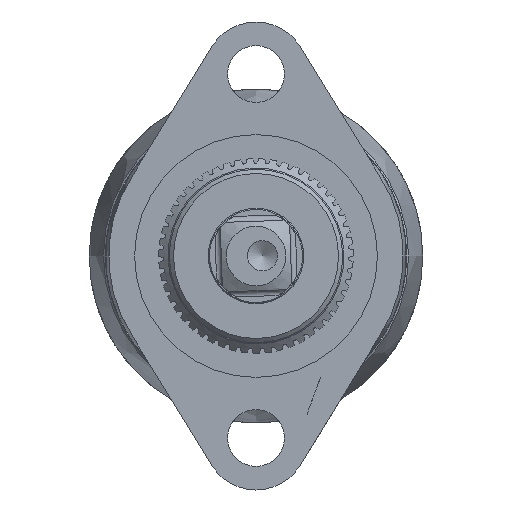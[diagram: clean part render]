
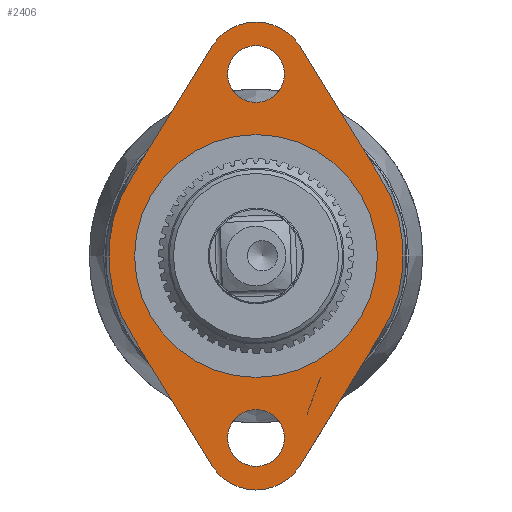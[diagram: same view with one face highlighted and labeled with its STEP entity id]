
A CAD part, left-side view. The second image highlights one B-rep face of the part: STEP entity #2406.
In plain terms, the highlighted planar face has unit normal (-1, 0, 0).
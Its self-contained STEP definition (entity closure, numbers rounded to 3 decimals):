
#707=LINE('',#161860,#1067);
#713=LINE('',#161884,#1073);
#714=LINE('',#161888,#1074);
#715=LINE('',#161892,#1075);
#1067=VECTOR('',#19800,1.);
#1073=VECTOR('',#19822,1.);
#1074=VECTOR('',#19825,1.);
#1075=VECTOR('',#19828,1.);
#2406=ADVANCED_FACE('',(#5329,#2941,#2942,#2943),#2784,.T.);
#2784=PLANE('',#17767);
#2941=FACE_BOUND('',#6409,.T.);
#2942=FACE_BOUND('',#6410,.T.);
#2943=FACE_BOUND('',#6411,.T.);
#5329=FACE_OUTER_BOUND('',#6408,.T.);
#6408=EDGE_LOOP('',(#10591,#10592,#10593,#10594,#10595,#10596,#10597,#10598));
#6409=EDGE_LOOP('',(#10599));
#6410=EDGE_LOOP('',(#10600));
#6411=EDGE_LOOP('',(#10601));
#10591=ORIENTED_EDGE('',*,*,#15791,.T.);
#10592=ORIENTED_EDGE('',*,*,#15794,.F.);
#10593=ORIENTED_EDGE('',*,*,#15805,.F.);
#10594=ORIENTED_EDGE('',*,*,#15806,.T.);
#10595=ORIENTED_EDGE('',*,*,#15807,.T.);
#10596=ORIENTED_EDGE('',*,*,#15808,.F.);
#10597=ORIENTED_EDGE('',*,*,#15809,.T.);
#10598=ORIENTED_EDGE('',*,*,#15810,.T.);
#10599=ORIENTED_EDGE('',*,*,#15811,.F.);
#10600=ORIENTED_EDGE('',*,*,#15812,.F.);
#10601=ORIENTED_EDGE('',*,*,#15789,.T.);
#13446=VERTEX_POINT('',#161849);
#13448=VERTEX_POINT('',#161853);
#13449=VERTEX_POINT('',#161855);
#13451=VERTEX_POINT('',#161861);
#13460=VERTEX_POINT('',#161883);
#13461=VERTEX_POINT('',#161885);
#13462=VERTEX_POINT('',#161887);
#13463=VERTEX_POINT('',#161889);
#13464=VERTEX_POINT('',#161891);
#13465=VERTEX_POINT('',#161894);
#13466=VERTEX_POINT('',#161896);
#15789=EDGE_CURVE('',#13446,#13446,#16799,.T.);
#15791=EDGE_CURVE('',#13449,#13448,#16800,.T.);
#15794=EDGE_CURVE('',#13451,#13448,#707,.T.);
#15805=EDGE_CURVE('',#13460,#13451,#16807,.T.);
#15806=EDGE_CURVE('',#13460,#13461,#713,.T.);
#15807=EDGE_CURVE('',#13461,#13462,#16808,.T.);
#15808=EDGE_CURVE('',#13463,#13462,#714,.T.);
#15809=EDGE_CURVE('',#13463,#13464,#16809,.T.);
#15810=EDGE_CURVE('',#13464,#13449,#715,.T.);
#15811=EDGE_CURVE('',#13465,#13465,#16810,.T.);
#15812=EDGE_CURVE('',#13466,#13466,#16811,.T.);
#16799=CIRCLE('',#17750,22.225);
#16800=CIRCLE('',#17752,26.975);
#16807=CIRCLE('',#17762,9.525);
#16808=CIRCLE('',#17763,26.975);
#16809=CIRCLE('',#17764,9.525);
#16810=CIRCLE('',#17765,5.201);
#16811=CIRCLE('',#17766,5.201);
#17750=AXIS2_PLACEMENT_3D('',#161848,#19788,#19789);
#17752=AXIS2_PLACEMENT_3D('',#161854,#19793,#19794);
#17762=AXIS2_PLACEMENT_3D('',#161882,#19820,#19821);
#17763=AXIS2_PLACEMENT_3D('',#161886,#19823,#19824);
#17764=AXIS2_PLACEMENT_3D('',#161890,#19826,#19827);
#17765=AXIS2_PLACEMENT_3D('',#161893,#19829,#19830);
#17766=AXIS2_PLACEMENT_3D('',#161895,#19831,#19832);
#17767=AXIS2_PLACEMENT_3D('',#161897,#19833,#19834);
#19788=DIRECTION('',(1.,0.,0.));
#19789=DIRECTION('',(0.,0.,-1.));
#19793=DIRECTION('',(-1.,0.,0.));
#19794=DIRECTION('',(0.,-1.,0.));
#19800=DIRECTION('',(0.,0.523,0.852));
#19820=DIRECTION('',(1.,0.,0.));
#19821=DIRECTION('',(0.,-1.,0.));
#19822=DIRECTION('',(0.,-0.523,0.852));
#19823=DIRECTION('',(-1.,0.,0.));
#19824=DIRECTION('',(0.,-1.,0.));
#19825=DIRECTION('',(0.,-0.523,-0.852));
#19826=DIRECTION('',(-1.,0.,0.));
#19827=DIRECTION('',(0.,-1.,0.));
#19828=DIRECTION('',(0.,0.523,-0.852));
#19829=DIRECTION('',(-1.,0.,0.));
#19830=DIRECTION('',(0.,0.,-1.));
#19831=DIRECTION('',(-1.,0.,0.));
#19832=DIRECTION('',(0.,0.,-1.));
#19833=DIRECTION('',(-1.,0.,0.));
#19834=DIRECTION('',(0.,0.,-1.));
#161848=CARTESIAN_POINT('',(-166.968,0.,0.));
#161849=CARTESIAN_POINT('',(-166.968,0.,-22.225));
#161853=CARTESIAN_POINT('',(-166.968,22.536,-14.825));
#161854=CARTESIAN_POINT('',(-166.968,0.,0.));
#161855=CARTESIAN_POINT('',(-166.968,22.536,14.825));
#161860=CARTESIAN_POINT('',(-166.968,7.957,-38.56));
#161861=CARTESIAN_POINT('',(-166.968,7.957,-38.56));
#161882=CARTESIAN_POINT('',(-166.968,0.,-33.325));
#161883=CARTESIAN_POINT('',(-166.968,-7.957,-38.56));
#161884=CARTESIAN_POINT('',(-166.968,-7.957,-38.56));
#161885=CARTESIAN_POINT('',(-166.968,-22.536,-14.825));
#161886=CARTESIAN_POINT('',(-166.968,0.,0.));
#161887=CARTESIAN_POINT('',(-166.968,-22.536,14.825));
#161888=CARTESIAN_POINT('',(-166.968,-7.957,38.56));
#161889=CARTESIAN_POINT('',(-166.968,-7.957,38.56));
#161890=CARTESIAN_POINT('',(-166.968,0.,33.325));
#161891=CARTESIAN_POINT('',(-166.968,7.957,38.56));
#161892=CARTESIAN_POINT('',(-166.968,7.957,38.56));
#161893=CARTESIAN_POINT('',(-166.968,0.,33.325));
#161894=CARTESIAN_POINT('',(-166.968,0.,28.124));
#161895=CARTESIAN_POINT('',(-166.968,0.,-33.325));
#161896=CARTESIAN_POINT('',(-166.968,0.,-38.525));
#161897=CARTESIAN_POINT('',(-166.968,0.,0.));
